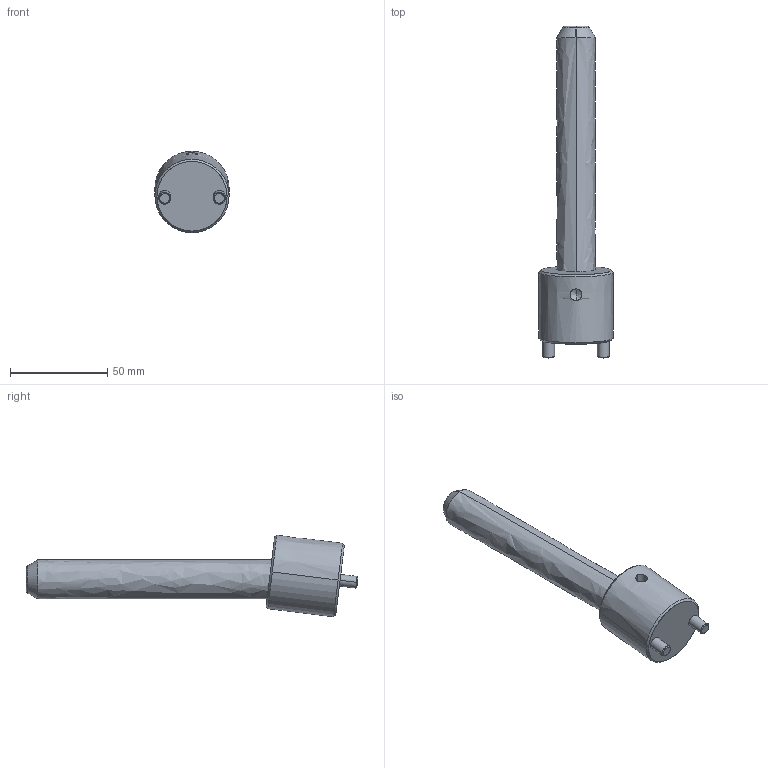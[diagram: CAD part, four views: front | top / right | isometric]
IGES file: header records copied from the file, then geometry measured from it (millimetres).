
Start section: START RECORD GO HERE.
Global section: file name: CI0720125.igs; native system: DASSAULT SYSTEMES CATIA V5 R20 - www.3ds.com; preprocessor: CATIA Version 5 Release 20 ; author: r.borello; organization: CFTORINO; date: 20190624.090847; units: millimetre
Bounding box: 38 x 170.46 x 41.86 mm (x, y, z)
Surface area: 19037.4 mm2 (no closed solid volume)
Topology: 0 solids, 0 shells, 39 faces, 162 edges, 160 vertices
Faces by surface type: revolution 32, plane 7
